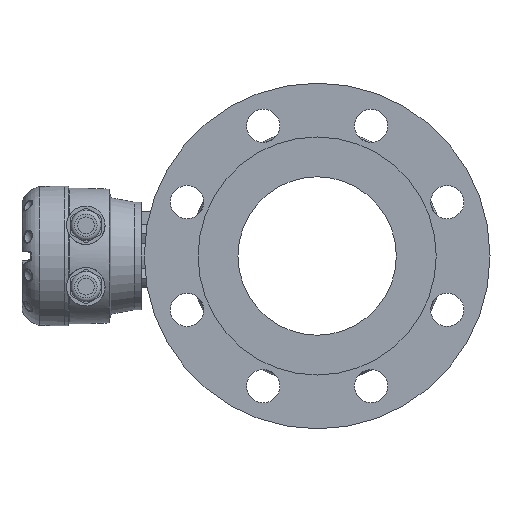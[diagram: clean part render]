
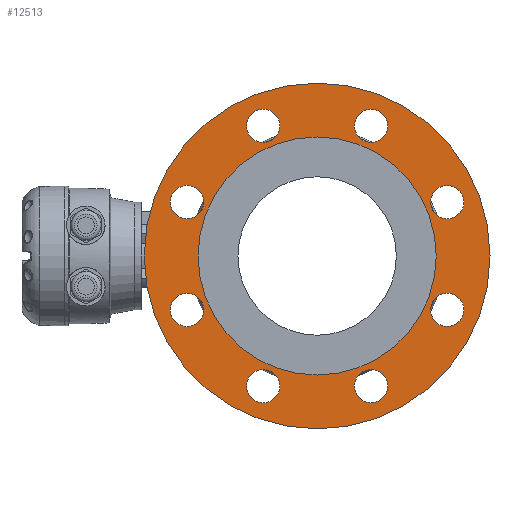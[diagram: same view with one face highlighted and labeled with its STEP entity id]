
A CAD part, left-side view. The second image highlights one B-rep face of the part: STEP entity #12513.
In plain terms, the highlighted planar face has unit normal (-1, 0, 0).
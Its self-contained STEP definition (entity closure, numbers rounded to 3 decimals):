
#2 = EDGE_CURVE ( 'NONE', #999, #999, #10063, .T. ) ;
#339 = CARTESIAN_POINT ( 'NONE',  ( -114.805, -173.112, -112.17 ) ) ;
#365 = DIRECTION ( 'NONE',  ( -1., 0., 0. ) ) ;
#366 = DIRECTION ( 'NONE',  ( 0., 0., 1. ) ) ;
#400 = CARTESIAN_POINT ( 'NONE',  ( -114.805, -131.017, -10.543 ) ) ;
#422 = DIRECTION ( 'NONE',  ( 1., 0., 0. ) ) ;
#423 = DIRECTION ( 'NONE',  ( 0., 0., -1. ) ) ;
#463 = CARTESIAN_POINT ( 'NONE',  ( -114.805, -232.644, -52.638 ) ) ;
#464 = DIRECTION ( 'NONE',  ( -1., 0., 0. ) ) ;
#465 = DIRECTION ( 'NONE',  ( 0., 0., 1. ) ) ;
#477 = CARTESIAN_POINT ( 'NONE',  ( -114.805, -232.644, 31.552 ) ) ;
#495 = DIRECTION ( 'NONE',  ( -1., 0., 0. ) ) ;
#496 = DIRECTION ( 'NONE',  ( 0., 0., 1. ) ) ;
#718 = CARTESIAN_POINT ( 'NONE',  ( -114.805, -29.39, 31.552 ) ) ;
#722 = DIRECTION ( 'NONE',  ( -1., 0., 0. ) ) ;
#723 = DIRECTION ( 'NONE',  ( 0., 0., 1. ) ) ;
#733 = CARTESIAN_POINT ( 'NONE',  ( -114.805, -173.112, 91.084 ) ) ;
#750 = DIRECTION ( 'NONE',  ( -1., 0., 0. ) ) ;
#751 = DIRECTION ( 'NONE',  ( 0., 0., 1. ) ) ;
#999 = VERTEX_POINT ( 'NONE', #1011 ) ;
#1011 = CARTESIAN_POINT ( 'NONE',  ( -114.805, -88.922, -99.17 ) ) ;
#1022 = VERTEX_POINT ( 'NONE', #1023 ) ;
#1023 = CARTESIAN_POINT ( 'NONE',  ( -114.805, -29.39, -39.638 ) ) ;
#1028 = VERTEX_POINT ( 'NONE', #1029 ) ;
#1029 = CARTESIAN_POINT ( 'NONE',  ( -114.805, -88.922, 104.084 ) ) ;
#1154 = VERTEX_POINT ( 'NONE', #1155 ) ;
#1155 = CARTESIAN_POINT ( 'NONE',  ( -114.805, -131.017, -103.543 ) ) ;
#1194 = VERTEX_POINT ( 'NONE', #1195 ) ;
#1195 = CARTESIAN_POINT ( 'NONE',  ( -114.805, -173.112, -99.17 ) ) ;
#1202 = VERTEX_POINT ( 'NONE', #1203 ) ;
#1203 = CARTESIAN_POINT ( 'NONE',  ( -114.805, -131.017, -145.543 ) ) ;
#1208 = VERTEX_POINT ( 'NONE', #1209 ) ;
#1209 = CARTESIAN_POINT ( 'NONE',  ( -114.805, -232.644, -39.638 ) ) ;
#1212 = VERTEX_POINT ( 'NONE', #1213 ) ;
#1213 = CARTESIAN_POINT ( 'NONE',  ( -114.805, -232.644, 44.552 ) ) ;
#1232 = VERTEX_POINT ( 'NONE', #1233 ) ;
#1233 = CARTESIAN_POINT ( 'NONE',  ( -114.805, -29.39, 44.552 ) ) ;
#1238 = VERTEX_POINT ( 'NONE', #1239 ) ;
#1239 = CARTESIAN_POINT ( 'NONE',  ( -114.805, -173.112, 104.084 ) ) ;
#3969 = CARTESIAN_POINT ( 'NONE',  ( -114.805, -131.017, -10.543 ) ) ;
#3971 = DIRECTION ( 'NONE',  ( 1., 0., 0. ) ) ;
#3972 = DIRECTION ( 'NONE',  ( 0., 0., -1. ) ) ;
#4757 = CIRCLE ( 'NONE', #8551, 13. ) ;
#4789 = EDGE_LOOP ( 'NONE', ( #9798 ) ) ;
#4790 = CIRCLE ( 'NONE', #8549, 135. ) ;
#4791 = EDGE_LOOP ( 'NONE', ( #9799 ) ) ;
#4792 = EDGE_LOOP ( 'NONE', ( #9796 ) ) ;
#4793 = EDGE_LOOP ( 'NONE', ( #9797 ) ) ;
#4795 = EDGE_LOOP ( 'NONE', ( #9794 ) ) ;
#4797 = EDGE_LOOP ( 'NONE', ( #9795 ) ) ;
#4799 = EDGE_LOOP ( 'NONE', ( #9792 ) ) ;
#4801 = EDGE_LOOP ( 'NONE', ( #9793 ) ) ;
#4803 = EDGE_LOOP ( 'NONE', ( #9791 ) ) ;
#4826 = CIRCLE ( 'NONE', #8558, 13. ) ;
#4835 = EDGE_LOOP ( 'NONE', ( #9800 ) ) ;
#4864 = CIRCLE ( 'NONE', #8564, 13. ) ;
#4945 = CIRCLE ( 'NONE', #8573, 13. ) ;
#4976 = CIRCLE ( 'NONE', #8580, 13. ) ;
#6676 = PLANE ( 'NONE',  #8212 ) ;
#6683 = CARTESIAN_POINT ( 'NONE',  ( -114.805, -131.017, -10.543 ) ) ;
#6688 = DIRECTION ( 'NONE',  ( -1., 0., 0. ) ) ;
#6689 = DIRECTION ( 'NONE',  ( 0., 0., -1. ) ) ;
#7513 = EDGE_CURVE ( 'NONE', #1022, #1022, #10138, .T. ) ;
#7516 = EDGE_CURVE ( 'NONE', #1028, #1028, #10141, .T. ) ;
#7947 = EDGE_CURVE ( 'NONE', #1154, #1154, #13113, .T. ) ;
#7973 = AXIS2_PLACEMENT_3D ( 'NONE', #10706, #10810, #10835 ) ;
#7995 = AXIS2_PLACEMENT_3D ( 'NONE', #8811, #8889, #8891 ) ;
#7999 = AXIS2_PLACEMENT_3D ( 'NONE', #8898, #8824, #8823 ) ;
#8167 = AXIS2_PLACEMENT_3D ( 'NONE', #3969, #3971, #3972 ) ;
#8212 = AXIS2_PLACEMENT_3D ( 'NONE', #6683, #6688, #6689 ) ;
#8549 = AXIS2_PLACEMENT_3D ( 'NONE', #400, #422, #423 ) ;
#8551 = AXIS2_PLACEMENT_3D ( 'NONE', #339, #365, #366 ) ;
#8558 = AXIS2_PLACEMENT_3D ( 'NONE', #463, #464, #465 ) ;
#8564 = AXIS2_PLACEMENT_3D ( 'NONE', #477, #495, #496 ) ;
#8573 = AXIS2_PLACEMENT_3D ( 'NONE', #718, #722, #723 ) ;
#8580 = AXIS2_PLACEMENT_3D ( 'NONE', #733, #750, #751 ) ;
#8811 = CARTESIAN_POINT ( 'NONE',  ( -114.805, -29.39, -52.638 ) ) ;
#8823 = DIRECTION ( 'NONE',  ( 0., 0., 1. ) ) ;
#8824 = DIRECTION ( 'NONE',  ( -1., 0., 0. ) ) ;
#8889 = DIRECTION ( 'NONE',  ( -1., 0., 0. ) ) ;
#8891 = DIRECTION ( 'NONE',  ( 0., 0., 1. ) ) ;
#8898 = CARTESIAN_POINT ( 'NONE',  ( -114.805, -88.922, 91.084 ) ) ;
#9791 = ORIENTED_EDGE ( 'NONE', *, *, #7947, .T. ) ;
#9792 = ORIENTED_EDGE ( 'NONE', *, *, #14747, .F. ) ;
#9793 = ORIENTED_EDGE ( 'NONE', *, *, #7513, .F. ) ;
#9794 = ORIENTED_EDGE ( 'NONE', *, *, #2, .F. ) ;
#9795 = ORIENTED_EDGE ( 'NONE', *, *, #14679, .F. ) ;
#9796 = ORIENTED_EDGE ( 'NONE', *, *, #14787, .F. ) ;
#9797 = ORIENTED_EDGE ( 'NONE', *, *, #14888, .F. ) ;
#9798 = ORIENTED_EDGE ( 'NONE', *, *, #15208, .F. ) ;
#9799 = ORIENTED_EDGE ( 'NONE', *, *, #7516, .F. ) ;
#9800 = ORIENTED_EDGE ( 'NONE', *, *, #15141, .F. ) ;
#10063 = CIRCLE ( 'NONE', #7973, 13. ) ;
#10138 = CIRCLE ( 'NONE', #7995, 13. ) ;
#10141 = CIRCLE ( 'NONE', #7999, 13. ) ;
#10706 = CARTESIAN_POINT ( 'NONE',  ( -114.805, -88.922, -112.17 ) ) ;
#10810 = DIRECTION ( 'NONE',  ( -1., 0., 0. ) ) ;
#10835 = DIRECTION ( 'NONE',  ( 0., 0., 1. ) ) ;
#12513 = ADVANCED_FACE ( 'NONE', ( #13467, #13473, #13475, #13477, #13471, #13466, #13474, #13476, #13478, #13472 ), #6676, .T. ) ;
#13113 = CIRCLE ( 'NONE', #8167, 93. ) ;
#13466 = FACE_BOUND ( 'NONE', #4797, .T. ) ;
#13467 = FACE_BOUND ( 'NONE', #4835, .T. ) ;
#13471 = FACE_BOUND ( 'NONE', #4792, .T. ) ;
#13472 = FACE_BOUND ( 'NONE', #4803, .T. ) ;
#13473 = FACE_BOUND ( 'NONE', #4791, .T. ) ;
#13474 = FACE_BOUND ( 'NONE', #4795, .T. ) ;
#13475 = FACE_BOUND ( 'NONE', #4789, .T. ) ;
#13476 = FACE_BOUND ( 'NONE', #4801, .T. ) ;
#13477 = FACE_BOUND ( 'NONE', #4793, .T. ) ;
#13478 = FACE_OUTER_BOUND ( 'NONE', #4799, .T. ) ;
#14679 = EDGE_CURVE ( 'NONE', #1194, #1194, #4757, .T. ) ;
#14747 = EDGE_CURVE ( 'NONE', #1202, #1202, #4790, .T. ) ;
#14787 = EDGE_CURVE ( 'NONE', #1208, #1208, #4826, .T. ) ;
#14888 = EDGE_CURVE ( 'NONE', #1212, #1212, #4864, .T. ) ;
#15141 = EDGE_CURVE ( 'NONE', #1232, #1232, #4945, .T. ) ;
#15208 = EDGE_CURVE ( 'NONE', #1238, #1238, #4976, .T. ) ;
